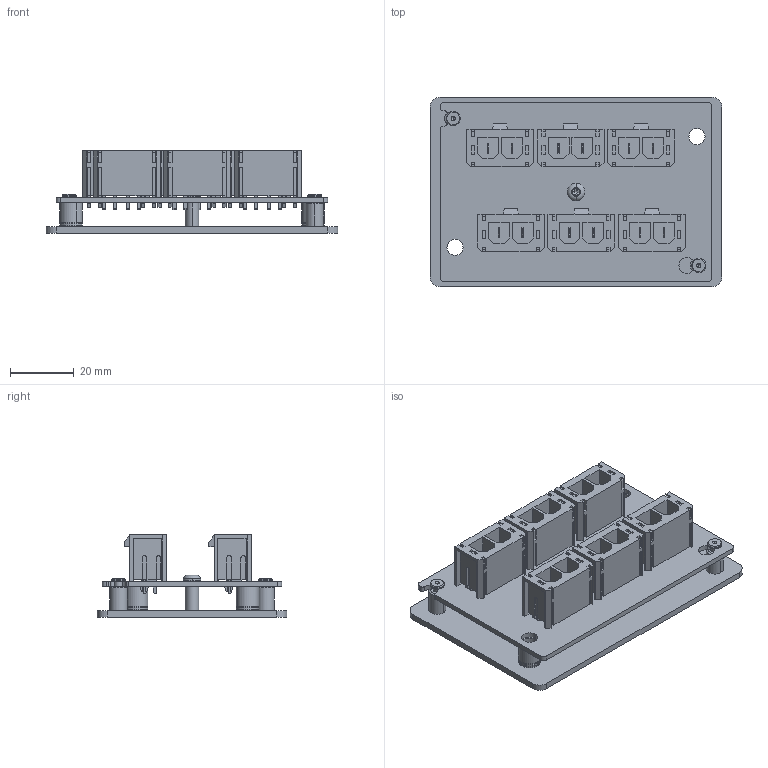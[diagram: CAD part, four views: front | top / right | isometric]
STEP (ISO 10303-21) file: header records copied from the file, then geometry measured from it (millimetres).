
FILE_DESCRIPTION (( 'STEP AP214' ), '1' );
FILE_NAME ('POWER4-STRIP.STEP', '2023-10-26T17:50:38', ( '' ), ( '' ), 'SwSTEP 2.0', 'SolidWorks 2020', '' );
FILE_SCHEMA (( 'AUTOMOTIVE_DESIGN' ));
Length unit declared in the file: inch
Products named in the file (1): POWER4-STRIP
Bounding box: 91.95 x 59.69 x 25.89 mm (x, y, z)
Volume: 30781.4 mm3; surface area: 38392.7 mm2
Topology: 14 solids, 14 shells, 1610 faces, 4335 edges, 2818 vertices
Faces by surface type: plane 1293, cylinder 260, cone 48, torus 6, bspline 3
Entity records: 72001 total; most frequent: CARTESIAN_POINT 10776, ORIENTED_EDGE 8646, DIRECTION 7667, EDGE_CURVE 4323, LINE 3535, VECTOR 3535, VERTEX_POINT 2818, AXIS2_PLACEMENT_3D 2066
